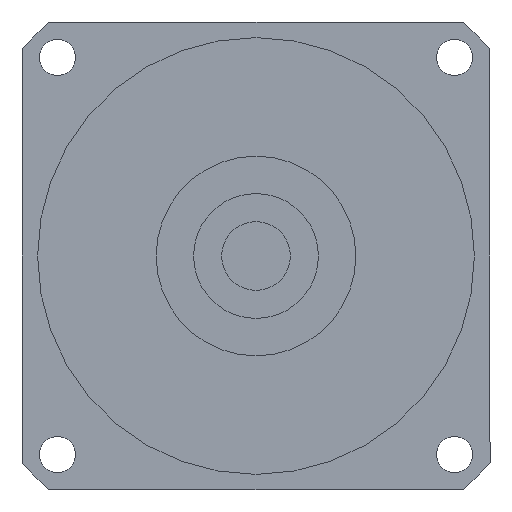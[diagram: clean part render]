
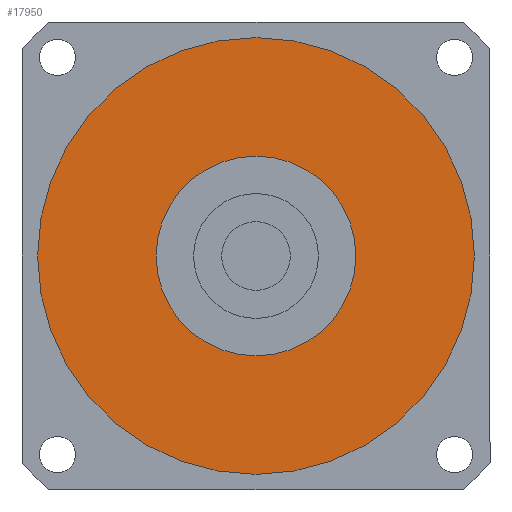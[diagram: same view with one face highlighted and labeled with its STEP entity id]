
A CAD part, left-side view. The second image highlights one B-rep face of the part: STEP entity #17950.
In plain terms, the highlighted planar face has unit normal (-1, 0, 0) as drawn and (0, 0, -1) by its records, which use the part's own axes.
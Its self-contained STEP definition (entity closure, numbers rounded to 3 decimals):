
#17380=CARTESIAN_POINT('',(35.,0.,-89.5));
#17390=VERTEX_POINT('',#17380);
#17420=CARTESIAN_POINT('',(0.,0.,
-89.5));
#17430=DIRECTION('',(0.,0.,1.));
#17440=DIRECTION('',(0.,-1.,0.));
#17450=AXIS2_PLACEMENT_3D('',#17420,#17430,#17440);
#17460=CIRCLE('',#17450,35.);
#17470=CARTESIAN_POINT('',(0.,-35.,-89.5));
#17480=VERTEX_POINT('',#17470);
#17490=EDGE_CURVE('',#17480,#17390,#17460,.T.);
#17510=CARTESIAN_POINT('',(-35.,0.,-89.5));
#17520=VERTEX_POINT('',#17510);
#17530=EDGE_CURVE('',#17520,#17480,#17460,.T.);
#17650=CARTESIAN_POINT('',(0.,0.,
-89.5));
#17660=DIRECTION('',(0.,0.,1.));
#17670=DIRECTION('',(-1.,0.,0.));
#17680=AXIS2_PLACEMENT_3D('',#17650,#17660,#17670);
#17690=PLANE('',#17680);
#17700=ORIENTED_EDGE('',*,*,#17490,.F.);
#17710=EDGE_CURVE('',#17390,#17520,#17460,.T.);
#17720=ORIENTED_EDGE('',*,*,#17710,.F.);
#17730=ORIENTED_EDGE('',*,*,#17530,.F.);
#17740=EDGE_LOOP('',(#17730,#17720,#17700));
#17750=FACE_OUTER_BOUND('',#17740,.T.);
#17760=CARTESIAN_POINT('',(0.,0.,
-89.5));
#17770=DIRECTION('',(0.,0.,1.));
#17780=DIRECTION('',(0.,-1.,0.));
#17790=AXIS2_PLACEMENT_3D('',#17760,#17770,#17780);
#17800=CIRCLE('',#17790,16.);
#17810=CARTESIAN_POINT('',(16.,0.,-89.5));
#17820=VERTEX_POINT('',#17810);
#17830=CARTESIAN_POINT('',(-16.,0.,-89.5));
#17840=VERTEX_POINT('',#17830);
#17850=EDGE_CURVE('',#17820,#17840,#17800,.T.);
#17860=ORIENTED_EDGE('',*,*,#17850,.T.);
#17870=CARTESIAN_POINT('',(0.,-16.,-89.5));
#17880=VERTEX_POINT('',#17870);
#17890=EDGE_CURVE('',#17880,#17820,#17800,.T.);
#17900=ORIENTED_EDGE('',*,*,#17890,.T.);
#17910=EDGE_CURVE('',#17840,#17880,#17800,.T.);
#17920=ORIENTED_EDGE('',*,*,#17910,.T.);
#17930=EDGE_LOOP('',(#17920,#17900,#17860));
#17940=FACE_BOUND('',#17930,.T.);
#17950=ADVANCED_FACE('',(#17750,#17940),#17690,.F.);
